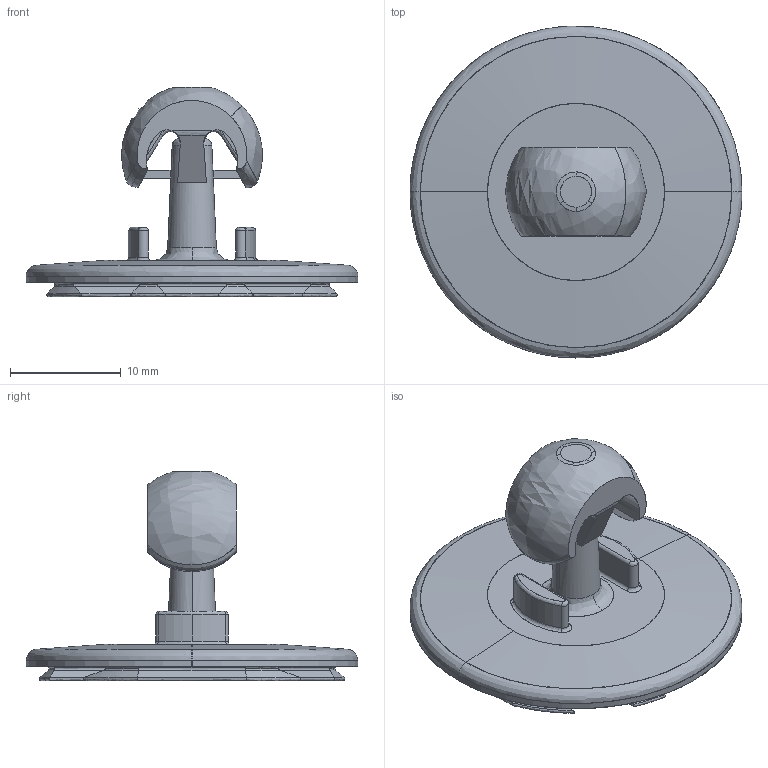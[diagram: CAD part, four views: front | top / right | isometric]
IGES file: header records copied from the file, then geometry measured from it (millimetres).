
Start section: SolidWorks IGES file using analytic representation for surfaces
Global section: file name: D:\Blender\Clients\FAS - Fastmount\FAS000 - General\Customer files\Clip Geometry\PC - Standard Range\IGES\PC-SM2H.IGS; native system: SolidWorks 2018; preprocessor: SolidWorks 2018; author: Evan; date: 190204.094521; units: millimetre
Bounding box: 30 x 30 x 18.97 mm (x, y, z)
Surface area: 2579.4 mm2 (no closed solid volume)
Topology: 0 solids, 0 shells, 227 faces, 2020 edges, 2018 vertices
Faces by surface type: bspline 123, revolution 104
